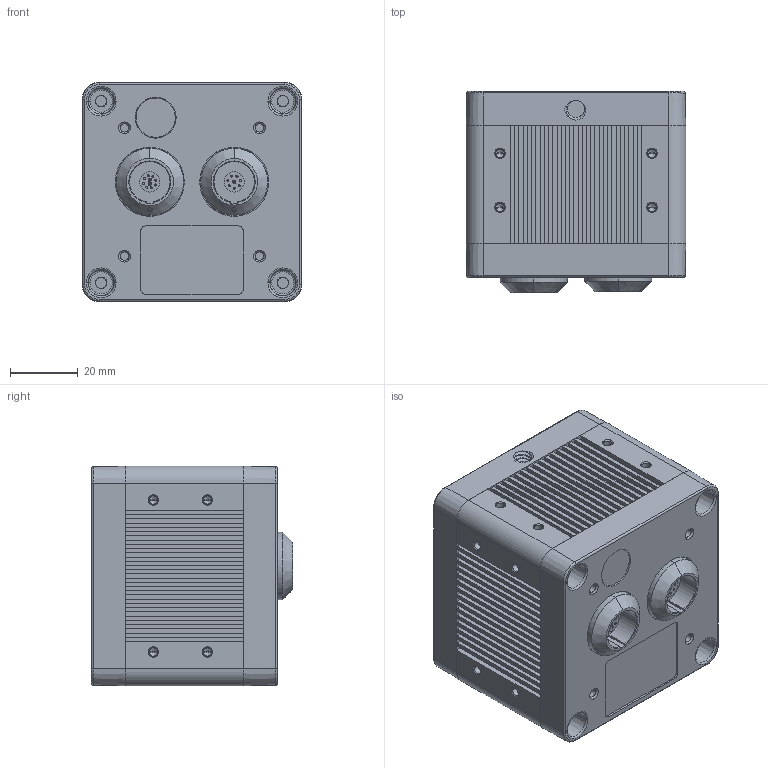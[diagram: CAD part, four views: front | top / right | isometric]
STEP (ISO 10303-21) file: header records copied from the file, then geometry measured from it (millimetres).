
FILE_DESCRIPTION((''),'2;1');
FILE_NAME('DCAM550_43D_ASM','2022-06-17T11:24:00',('Lincoln'),(''),'CREO PARAMETRIC BY PTC INC, 2018260','CREO PARAMETRIC BY PTC INC, 2018260','');
FILE_SCHEMA(('CONFIG_CONTROL_DESIGN','GEOMETRIC_VALIDATION_PROPERTIES_MIM'));
Length unit declared in the file: millimetre
Products named in the file (4): 43D_TOP_COVER_550; 43D_550E_MIDDLE_COVER; 43D_BACK_COVER_1ST_HC; DCAM550_43D_ASM
Assembly tree (3 placements, depth 2):
  DCAM550_43D_ASM
    43D_TOP_COVER_550
    43D_550E_MIDDLE_COVER
    43D_BACK_COVER_1ST_HC
Bounding box: 65 x 59.55 x 65 mm (x, y, z)
Volume: 223285.4 mm3; surface area: 51118.5 mm2
Topology: 5 solids, 8 shells, 723 faces, 1868 edges, 1203 vertices
Faces by surface type: plane 382, cylinder 150, cone 132, bspline 33, torus 24, extrusion 2
Entity records: 27292 total; most frequent: CARTESIAN_POINT 8563, ORIENTED_EDGE 3640, DIRECTION 3564, EDGE_CURVE 1820, VECTOR 1262, LINE 1260, VERTEX_POINT 1171, AXIS2_PLACEMENT_3D 1151
